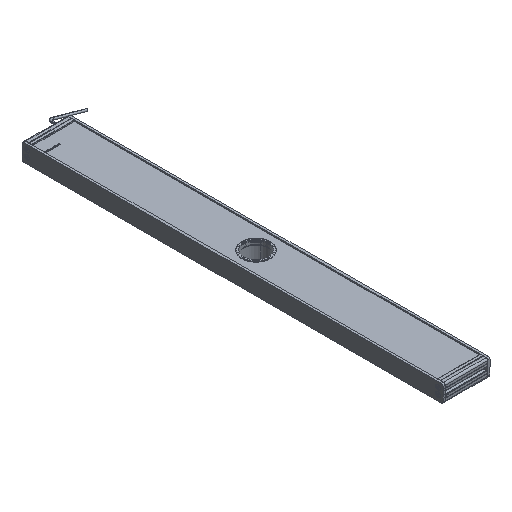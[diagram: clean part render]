
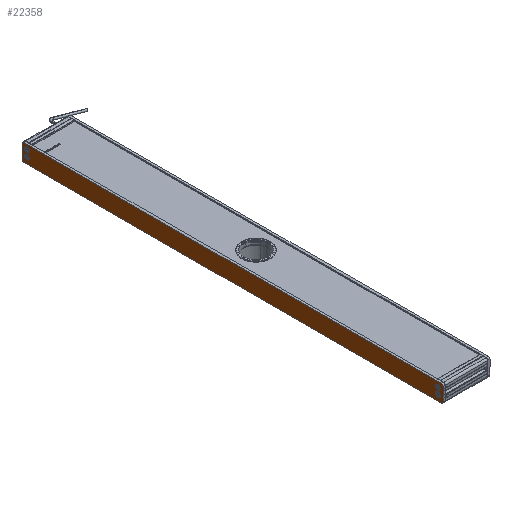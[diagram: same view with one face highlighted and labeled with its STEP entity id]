
A CAD part, isometric view. The second image highlights one B-rep face of the part: STEP entity #22358.
In plain terms, the highlighted planar face has unit normal (-1, 0, 0) as drawn and (0, 0, -1) by its records, which use the part's own axes.
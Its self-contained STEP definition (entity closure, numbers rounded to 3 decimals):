
#33 = CARTESIAN_POINT ( 'NONE',  ( 489., 16., 0. ) ) ;
#65 = LINE ( 'NONE', #20150, #7826 ) ;
#176 = DIRECTION ( 'NONE',  ( -1., 0., 0. ) ) ;
#399 = CARTESIAN_POINT ( 'NONE',  ( 481.3, -6.3, 0. ) ) ;
#407 = DIRECTION ( 'NONE',  ( 0., 1., 0. ) ) ;
#678 = DIRECTION ( 'NONE',  ( 0., 0., -1. ) ) ;
#681 = CIRCLE ( 'NONE', #7803, 4. ) ;
#690 = VERTEX_POINT ( 'NONE', #20047 ) ;
#879 = VERTEX_POINT ( 'NONE', #11931 ) ;
#1542 = CARTESIAN_POINT ( 'NONE',  ( -481.3, -6.3, 0. ) ) ;
#1796 = CARTESIAN_POINT ( 'NONE',  ( 493., -16., 0. ) ) ;
#1924 = VERTEX_POINT ( 'NONE', #24425 ) ;
#1987 = FACE_OUTER_BOUND ( 'NONE', #22074, .T. ) ;
#1996 = AXIS2_PLACEMENT_3D ( 'NONE', #19938, #10091, #12181 ) ;
#2122 = DIRECTION ( 'NONE',  ( 0., 0., 1. ) ) ;
#2158 = ORIENTED_EDGE ( 'NONE', *, *, #3607, .F. ) ;
#2207 = EDGE_CURVE ( 'NONE', #5608, #8509, #3852, .T. ) ;
#2727 = CIRCLE ( 'NONE', #3559, 5.6 ) ;
#3132 = CARTESIAN_POINT ( 'NONE',  ( -489., -20., 0. ) ) ;
#3209 = AXIS2_PLACEMENT_3D ( 'NONE', #399, #12572, #24278 ) ;
#3266 = CARTESIAN_POINT ( 'NONE',  ( 475.7, 8.5, 0. ) ) ;
#3438 = ORIENTED_EDGE ( 'NONE', *, *, #11714, .F. ) ;
#3559 = AXIS2_PLACEMENT_3D ( 'NONE', #10777, #21029, #18802 ) ;
#3607 = EDGE_CURVE ( 'NONE', #690, #5698, #19992, .T. ) ;
#3661 = EDGE_CURVE ( 'NONE', #1924, #9892, #16266, .T. ) ;
#3669 = AXIS2_PLACEMENT_3D ( 'NONE', #10606, #10115, #6181 ) ;
#3686 = CIRCLE ( 'NONE', #10389, 5.6 ) ;
#3852 = CIRCLE ( 'NONE', #24796, 4. ) ;
#3937 = EDGE_CURVE ( 'NONE', #22882, #7739, #2727, .T. ) ;
#3951 = FACE_BOUND ( 'NONE', #23632, .T. ) ;
#3952 = CARTESIAN_POINT ( 'NONE',  ( -489., 16., 0. ) ) ;
#4026 = CIRCLE ( 'NONE', #4827, 4. ) ;
#4099 = CIRCLE ( 'NONE', #22945, 5.6 ) ;
#4114 = AXIS2_PLACEMENT_3D ( 'NONE', #24437, #678, #176 ) ;
#4651 = CARTESIAN_POINT ( 'NONE',  ( -475.7, -6.3, 0. ) ) ;
#4827 = AXIS2_PLACEMENT_3D ( 'NONE', #6405, #16385, #22412 ) ;
#4931 = AXIS2_PLACEMENT_3D ( 'NONE', #11975, #25382, #5342 ) ;
#5028 = VERTEX_POINT ( 'NONE', #4651 ) ;
#5073 = VERTEX_POINT ( 'NONE', #20417 ) ;
#5093 = EDGE_LOOP ( 'NONE', ( #20635, #17568 ) ) ;
#5098 = EDGE_LOOP ( 'NONE', ( #23291, #17867 ) ) ;
#5342 = DIRECTION ( 'NONE',  ( -1., 0., 0. ) ) ;
#5464 = EDGE_CURVE ( 'NONE', #6477, #5028, #3686, .T. ) ;
#5608 = VERTEX_POINT ( 'NONE', #19924 ) ;
#5698 = VERTEX_POINT ( 'NONE', #14001 ) ;
#5765 = DIRECTION ( 'NONE',  ( 0., 0., -1. ) ) ;
#5914 = CARTESIAN_POINT ( 'NONE',  ( -481.3, -6.3, 0. ) ) ;
#6181 = DIRECTION ( 'NONE',  ( -1., 0., 0. ) ) ;
#6307 = CARTESIAN_POINT ( 'NONE',  ( 489., 16., 0. ) ) ;
#6337 = LINE ( 'NONE', #8542, #7485 ) ;
#6405 = CARTESIAN_POINT ( 'NONE',  ( 489., -16., 0. ) ) ;
#6477 = VERTEX_POINT ( 'NONE', #12109 ) ;
#6518 = CIRCLE ( 'NONE', #21196, 5.6 ) ;
#6645 = EDGE_CURVE ( 'NONE', #8509, #13290, #6337, .T. ) ;
#6893 = EDGE_CURVE ( 'NONE', #7739, #22882, #17491, .T. ) ;
#7454 = DIRECTION ( 'NONE',  ( 1., 0., 0. ) ) ;
#7485 = VECTOR ( 'NONE', #14589, 1000. ) ;
#7739 = VERTEX_POINT ( 'NONE', #13773 ) ;
#7803 = AXIS2_PLACEMENT_3D ( 'NONE', #3952, #2122, #24172 ) ;
#7826 = VECTOR ( 'NONE', #18438, 1000. ) ;
#8509 = VERTEX_POINT ( 'NONE', #14814 ) ;
#8542 = CARTESIAN_POINT ( 'NONE',  ( -489., 20., 0. ) ) ;
#9077 = CARTESIAN_POINT ( 'NONE',  ( 475.7, -6.3, 0. ) ) ;
#9113 = CIRCLE ( 'NONE', #4114, 5.6 ) ;
#9892 = VERTEX_POINT ( 'NONE', #3266 ) ;
#9999 = PLANE ( 'NONE',  #14983 ) ;
#10091 = DIRECTION ( 'NONE',  ( 0., 0., 1. ) ) ;
#10115 = DIRECTION ( 'NONE',  ( 0., 0., -1. ) ) ;
#10286 = VERTEX_POINT ( 'NONE', #15147 ) ;
#10360 = CARTESIAN_POINT ( 'NONE',  ( 493., -16., 0. ) ) ;
#10389 = AXIS2_PLACEMENT_3D ( 'NONE', #1542, #17567, #21248 ) ;
#10530 = ORIENTED_EDGE ( 'NONE', *, *, #19688, .F. ) ;
#10606 = CARTESIAN_POINT ( 'NONE',  ( -481.3, 8.5, 0. ) ) ;
#10777 = CARTESIAN_POINT ( 'NONE',  ( -481.3, 8.5, 0. ) ) ;
#11298 = ORIENTED_EDGE ( 'NONE', *, *, #18878, .F. ) ;
#11507 = DIRECTION ( 'NONE',  ( -1., 0., 0. ) ) ;
#11714 = EDGE_CURVE ( 'NONE', #14420, #5608, #20224, .T. ) ;
#11931 = CARTESIAN_POINT ( 'NONE',  ( 489., -20., 0. ) ) ;
#11975 = CARTESIAN_POINT ( 'NONE',  ( 481.3, 8.5, 0. ) ) ;
#12109 = CARTESIAN_POINT ( 'NONE',  ( -486.9, -6.3, 0. ) ) ;
#12123 = CARTESIAN_POINT ( 'NONE',  ( -475.7, 8.5, 0. ) ) ;
#12181 = DIRECTION ( 'NONE',  ( -1., 0., 0. ) ) ;
#12483 = ORIENTED_EDGE ( 'NONE', *, *, #5464, .F. ) ;
#12572 = DIRECTION ( 'NONE',  ( 0., 0., -1. ) ) ;
#12628 = ORIENTED_EDGE ( 'NONE', *, *, #3937, .F. ) ;
#12816 = EDGE_CURVE ( 'NONE', #879, #14420, #4026, .T. ) ;
#12906 = CARTESIAN_POINT ( 'NONE',  ( -489., 20., 0. ) ) ;
#13290 = VERTEX_POINT ( 'NONE', #12906 ) ;
#13773 = CARTESIAN_POINT ( 'NONE',  ( -486.9, 8.5, 0. ) ) ;
#13917 = FACE_BOUND ( 'NONE', #5098, .T. ) ;
#14001 = CARTESIAN_POINT ( 'NONE',  ( -489., -20., 0. ) ) ;
#14037 = DIRECTION ( 'NONE',  ( 0., 0., 1. ) ) ;
#14038 = DIRECTION ( 'NONE',  ( -1., 0., 0. ) ) ;
#14420 = VERTEX_POINT ( 'NONE', #1796 ) ;
#14589 = DIRECTION ( 'NONE',  ( -1., 0., 0. ) ) ;
#14814 = CARTESIAN_POINT ( 'NONE',  ( 489., 20., 0. ) ) ;
#14983 = AXIS2_PLACEMENT_3D ( 'NONE', #33, #21428, #18132 ) ;
#15050 = EDGE_CURVE ( 'NONE', #5698, #879, #21115, .T. ) ;
#15147 = CARTESIAN_POINT ( 'NONE',  ( -493., 16., 0. ) ) ;
#15482 = EDGE_LOOP ( 'NONE', ( #12483, #21549 ) ) ;
#15899 = FACE_BOUND ( 'NONE', #5093, .T. ) ;
#16013 = DIRECTION ( 'NONE',  ( -1., 0., 0. ) ) ;
#16266 = CIRCLE ( 'NONE', #4931, 5.6 ) ;
#16323 = ORIENTED_EDGE ( 'NONE', *, *, #12816, .F. ) ;
#16385 = DIRECTION ( 'NONE',  ( 0., 0., 1. ) ) ;
#17491 = CIRCLE ( 'NONE', #3669, 5.6 ) ;
#17567 = DIRECTION ( 'NONE',  ( 0., 0., -1. ) ) ;
#17568 = ORIENTED_EDGE ( 'NONE', *, *, #3661, .F. ) ;
#17867 = ORIENTED_EDGE ( 'NONE', *, *, #25609, .F. ) ;
#18132 = DIRECTION ( 'NONE',  ( -1., 0., 0. ) ) ;
#18438 = DIRECTION ( 'NONE',  ( 0., -1., 0. ) ) ;
#18802 = DIRECTION ( 'NONE',  ( -1., 0., 0. ) ) ;
#18878 = EDGE_CURVE ( 'NONE', #13290, #10286, #681, .T. ) ;
#19655 = ORIENTED_EDGE ( 'NONE', *, *, #6645, .F. ) ;
#19688 = EDGE_CURVE ( 'NONE', #10286, #690, #65, .T. ) ;
#19700 = DIRECTION ( 'NONE',  ( 0., 0., -1. ) ) ;
#19849 = VERTEX_POINT ( 'NONE', #9077 ) ;
#19924 = CARTESIAN_POINT ( 'NONE',  ( 493., 16., 0. ) ) ;
#19938 = CARTESIAN_POINT ( 'NONE',  ( -489., -16., 0. ) ) ;
#19980 = FACE_BOUND ( 'NONE', #15482, .T. ) ;
#19992 = CIRCLE ( 'NONE', #1996, 4. ) ;
#20047 = CARTESIAN_POINT ( 'NONE',  ( -493., -16., 0. ) ) ;
#20150 = CARTESIAN_POINT ( 'NONE',  ( -493., -16., 0. ) ) ;
#20224 = LINE ( 'NONE', #10360, #25290 ) ;
#20236 = EDGE_CURVE ( 'NONE', #5028, #6477, #4099, .T. ) ;
#20417 = CARTESIAN_POINT ( 'NONE',  ( 486.9, -6.3, 0. ) ) ;
#20635 = ORIENTED_EDGE ( 'NONE', *, *, #22073, .F. ) ;
#20726 = ORIENTED_EDGE ( 'NONE', *, *, #15050, .F. ) ;
#20826 = CIRCLE ( 'NONE', #3209, 5.6 ) ;
#21029 = DIRECTION ( 'NONE',  ( 0., 0., -1. ) ) ;
#21115 = LINE ( 'NONE', #3132, #22553 ) ;
#21196 = AXIS2_PLACEMENT_3D ( 'NONE', #22048, #5765, #11507 ) ;
#21248 = DIRECTION ( 'NONE',  ( -1., 0., 0. ) ) ;
#21428 = DIRECTION ( 'NONE',  ( 0., 0., -1. ) ) ;
#21549 = ORIENTED_EDGE ( 'NONE', *, *, #20236, .F. ) ;
#22003 = ORIENTED_EDGE ( 'NONE', *, *, #2207, .F. ) ;
#22048 = CARTESIAN_POINT ( 'NONE',  ( 481.3, -6.3, 0. ) ) ;
#22073 = EDGE_CURVE ( 'NONE', #9892, #1924, #9113, .T. ) ;
#22074 = EDGE_LOOP ( 'NONE', ( #22003, #3438, #16323, #20726, #2158, #10530, #11298, #19655 ) ) ;
#22358 = ADVANCED_FACE ( 'NONE', ( #15899, #13917, #3951, #19980, #1987 ), #9999, .T. ) ;
#22412 = DIRECTION ( 'NONE',  ( 1., 0., 0. ) ) ;
#22553 = VECTOR ( 'NONE', #7454, 1000. ) ;
#22882 = VERTEX_POINT ( 'NONE', #12123 ) ;
#22945 = AXIS2_PLACEMENT_3D ( 'NONE', #5914, #19700, #14038 ) ;
#23070 = ORIENTED_EDGE ( 'NONE', *, *, #6893, .F. ) ;
#23291 = ORIENTED_EDGE ( 'NONE', *, *, #24418, .F. ) ;
#23632 = EDGE_LOOP ( 'NONE', ( #23070, #12628 ) ) ;
#24172 = DIRECTION ( 'NONE',  ( -1., 0., 0. ) ) ;
#24278 = DIRECTION ( 'NONE',  ( -1., 0., 0. ) ) ;
#24418 = EDGE_CURVE ( 'NONE', #19849, #5073, #6518, .T. ) ;
#24425 = CARTESIAN_POINT ( 'NONE',  ( 486.9, 8.5, 0. ) ) ;
#24437 = CARTESIAN_POINT ( 'NONE',  ( 481.3, 8.5, 0. ) ) ;
#24796 = AXIS2_PLACEMENT_3D ( 'NONE', #6307, #14037, #16013 ) ;
#25290 = VECTOR ( 'NONE', #407, 1000. ) ;
#25382 = DIRECTION ( 'NONE',  ( 0., 0., -1. ) ) ;
#25609 = EDGE_CURVE ( 'NONE', #5073, #19849, #20826, .T. ) ;
